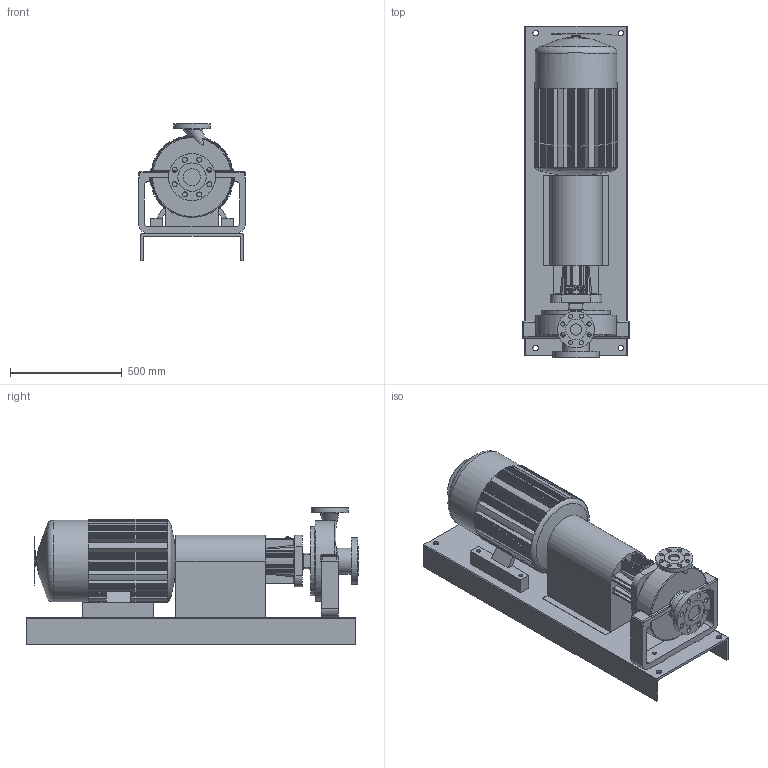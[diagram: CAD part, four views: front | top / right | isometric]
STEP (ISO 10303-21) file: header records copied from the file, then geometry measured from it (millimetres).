
FILE_DESCRIPTION(/* description */ ('Unknown'),/* implementation_level */ '2;1');
FILE_NAME(/* name */ 'CTP 2x3x10 324TS',/* time_stamp */ '2016-02-18T11:06:44+01:00',/* author */ ('Unknown'),/* organization */ ('Unknown'),/* preprocessor_version */ 'ST-DEVELOPER v16',/* originating_system */ 'DEX',/* authorisation */ $);
FILE_SCHEMA (('AUTOMOTIVE_DESIGN {1 0 10303 214 3 1 1}'));
Products named in the file (1): Maatschets3D CTP
Bounding box: 476.25 x 1485.9 x 615.95 mm (x, y, z)
Volume: 95744404.9 mm3; surface area: 6481180.8 mm2
Topology: 1 solids, 1 shells, 1643 faces, 4192 edges, 2507 vertices
Faces by surface type: plane 1150, cylinder 299, bspline 139, sphere 31, torus 22, cone 2
Full cylindrical faces by diameter (mm): 16 x2, 16.764 x4, 19.05 x8, 22.225 x8, 25 x4, 50.8 x1, 57.625 x1, 76.2 x1, 92.075 x1, 117 x1, 127 x1, 165.1 x1, 209.55 x1, 235 x1, 280 x1, 309 x1, 361 x1, 365.76 x1
Entity records: 66695 total; most frequent: CARTESIAN_POINT 16423, ORIENTED_EDGE 8108, DIRECTION 8015, EDGE_CURVE 4054, AXIS2_PLACEMENT_3D 2718, LINE 2579, VECTOR 2579, VERTEX_POINT 2477
